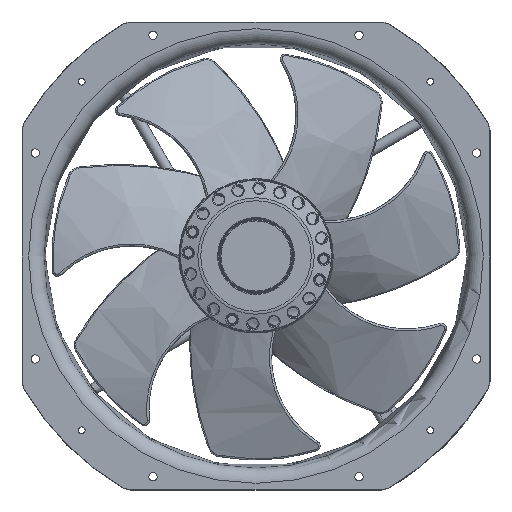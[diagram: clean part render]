
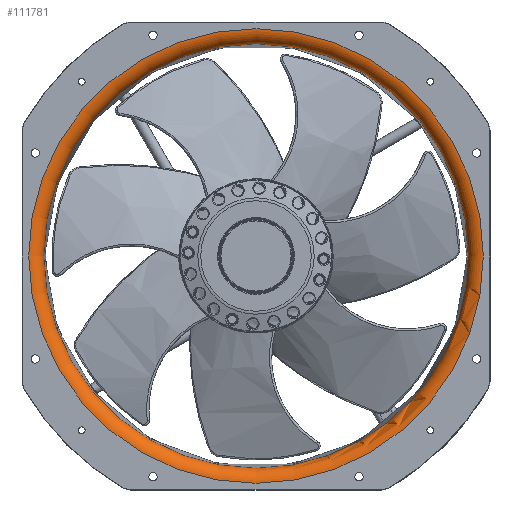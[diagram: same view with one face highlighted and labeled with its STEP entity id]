
A CAD part, front view. The second image highlights one B-rep face of the part: STEP entity #111781.
In plain terms, the highlighted toroidal (fillet/blend) face has major radius 135.999 mm and minor radius 9 mm.
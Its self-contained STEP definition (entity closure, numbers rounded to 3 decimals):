
#4876=TOROIDAL_SURFACE('',#120552,135.999,9.);
#25082=FACE_OUTER_BOUND('',#32087,.T.);
#32087=EDGE_LOOP('',(#84275,#84276,#84277,#84278,#84279,#84280,#84281));
#38980=B_SPLINE_CURVE_WITH_KNOTS('',3,(#195931,#195932,#195933,#195934,
#195935,#195936),.UNSPECIFIED.,.F.,.F.,(4,2,4),(-0.106,-0.054,
0.),.UNSPECIFIED.);
#43517=CIRCLE('',#119506,135.999);
#44182=CIRCLE('',#120514,127.);
#44183=CIRCLE('',#120515,127.);
#44184=CIRCLE('',#120516,127.);
#44203=CIRCLE('',#120553,9.);
#48106=VERTEX_POINT('',#183750);
#48761=VERTEX_POINT('',#194705);
#48762=VERTEX_POINT('',#194707);
#48763=VERTEX_POINT('',#194709);
#48765=VERTEX_POINT('',#194739);
#60473=EDGE_CURVE('',#48106,#48106,#43517,.T.);
#61768=EDGE_CURVE('',#48762,#48761,#44182,.T.);
#61769=EDGE_CURVE('',#48763,#48762,#44183,.T.);
#61772=EDGE_CURVE('',#48761,#48765,#44184,.T.);
#61833=EDGE_CURVE('',#48765,#48763,#38980,.T.);
#61834=EDGE_CURVE('',#48106,#48762,#44203,.T.);
#84275=ORIENTED_EDGE('',*,*,#60473,.F.);
#84276=ORIENTED_EDGE('',*,*,#61834,.T.);
#84277=ORIENTED_EDGE('',*,*,#61768,.T.);
#84278=ORIENTED_EDGE('',*,*,#61772,.T.);
#84279=ORIENTED_EDGE('',*,*,#61833,.T.);
#84280=ORIENTED_EDGE('',*,*,#61769,.T.);
#84281=ORIENTED_EDGE('',*,*,#61834,.F.);
#111781=ADVANCED_FACE('',(#25082),#4876,.T.);
#119506=AXIS2_PLACEMENT_3D('',#183751,#132107,#132108);
#120514=AXIS2_PLACEMENT_3D('',#194708,#134296,#134297);
#120515=AXIS2_PLACEMENT_3D('',#194710,#134298,#134299);
#120516=AXIS2_PLACEMENT_3D('',#194752,#134300,#134301);
#120552=AXIS2_PLACEMENT_3D('',#195937,#134381,#134382);
#120553=AXIS2_PLACEMENT_3D('',#195938,#134383,#134384);
#132107=DIRECTION('center_axis',(0.,1.,0.));
#132108=DIRECTION('ref_axis',(1.,0.,0.));
#134296=DIRECTION('center_axis',(0.,1.,0.));
#134297=DIRECTION('ref_axis',(1.,0.,0.));
#134298=DIRECTION('center_axis',(0.,1.,0.));
#134299=DIRECTION('ref_axis',(1.,0.,0.));
#134300=DIRECTION('center_axis',(0.,1.,0.));
#134301=DIRECTION('ref_axis',(1.,0.,0.));
#134381=DIRECTION('center_axis',(0.,1.,0.));
#134382=DIRECTION('ref_axis',(0.,0.,1.));
#134383=DIRECTION('center_axis',(-1.,0.,0.));
#134384=DIRECTION('ref_axis',(0.,0.,
-1.));
#183750=CARTESIAN_POINT('',(0.,0.,-135.999));
#183751=CARTESIAN_POINT('Origin',(0.,0.,0.));
#194705=CARTESIAN_POINT('',(127.,8.859,0.));
#194707=CARTESIAN_POINT('',(0.,8.859,-127.));
#194708=CARTESIAN_POINT('Origin',(0.,8.859,
0.));
#194709=CARTESIAN_POINT('',(61.255,8.859,-111.251));
#194710=CARTESIAN_POINT('Origin',(0.,8.859,
0.));
#194739=CARTESIAN_POINT('',(62.169,8.859,-110.743));
#194752=CARTESIAN_POINT('Origin',(0.,8.859,
0.));
#195931=CARTESIAN_POINT('Ctrl Pts',(62.169,8.859,-110.743));
#195932=CARTESIAN_POINT('Ctrl Pts',(62.026,8.807,-110.824));
#195933=CARTESIAN_POINT('Ctrl Pts',(61.876,8.78,-110.909));
#195934=CARTESIAN_POINT('Ctrl Pts',(61.566,8.778,-111.081));
#195935=CARTESIAN_POINT('Ctrl Pts',(61.408,8.805,-111.168));
#195936=CARTESIAN_POINT('Ctrl Pts',(61.255,8.859,-111.251));
#195937=CARTESIAN_POINT('Origin',(0.,9.,0.));
#195938=CARTESIAN_POINT('Origin',(0.,9.,-135.999));
